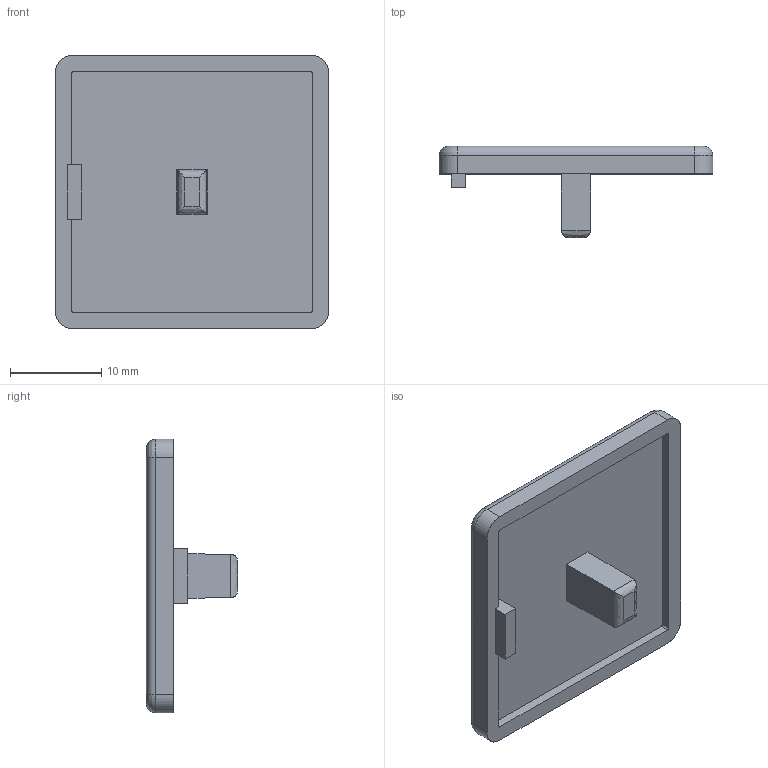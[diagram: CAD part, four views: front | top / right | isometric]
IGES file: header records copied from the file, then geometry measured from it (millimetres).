
Start section: SolidWorks IGES file using analytic representation for surfaces
Global section: file name: C:\Users\admin\Desktop\IGES\J3C3G.igs; native system: SolidWorks 2014; preprocessor: SolidWorks 2014; author: admin_pc; date: 170524.165357; units: millimetre
Bounding box: 30 x 10 x 30 mm (x, y, z)
Surface area: 2344.8 mm2 (no closed solid volume)
Topology: 0 solids, 0 shells, 42 faces, 316 edges, 316 vertices
Faces by surface type: bspline 26, revolution 16
